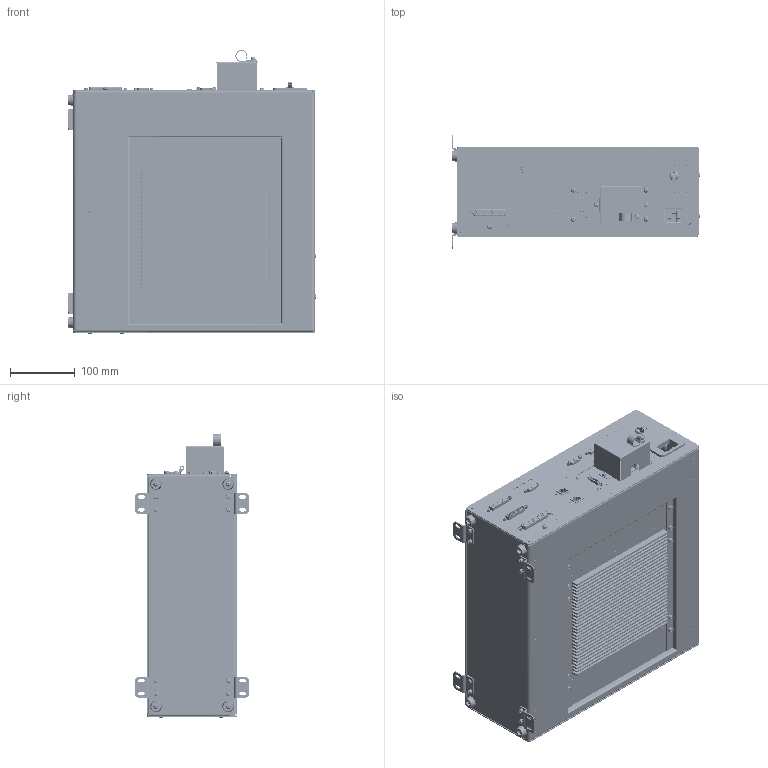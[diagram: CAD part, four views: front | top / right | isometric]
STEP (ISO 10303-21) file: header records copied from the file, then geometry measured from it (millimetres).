
FILE_DESCRIPTION (( 'STEP AP203' ), '1' );
FILE_NAME ('RC40B-DEX ¿ØÖÆ¹ñ Êú°æ.STEP', '2022-07-26T07:46:23', ( '' ), ( '' ), 'SwSTEP 2.0', 'SolidWorks 2021', '' );
FILE_SCHEMA (( 'CONFIG_CONTROL_DESIGN' ));
Length unit declared in the file: millimetre
Products named in the file (42): CDRD-4A05-A01.STEP; RC60A-DAX-01-06 __________.STEP; __________ NYDM3100-20P-P-20P.STEP; GB__T6170-20001__________A____B__M3.STEP; RC60A-DAX-01-10 ________.STEP; RC60A-DAX-01-01 ____.STEP; DS-UNC-2P-2.STEP; RC40B-DEX 諷秶嶄.STEP; RC40A-DEX-02-02__________B.STEP; DS-UNC-2P.STEP; GB__T6170-20001__________A____B__M4.STEP; E7.820.003A.STEP; RC60A-DAX-01-05 IO________.STEP; RC60A-DAX-01-02 ______.STEP; ________-1.STEP; ________.STEP; RC40B-DEX 諷秶嶄 旳唳; RC40-01-20 ________________.STEP; ________________ M4__6.STEP; RC40A-DAX-01-03 ________.STEP; ______________ M3__6.STEP; ____________ MC20FEL5.STEP; DM-9SS(MISUMI).STEP; DS-UNC-2P-3.STEP; RC40A-DEX-02-01__________A.STEP; ____________________ M4__8.STEP; ________ 18__15__8.STEP; ______ BB2-B0-42-616-12B-E.STEP; RC40A-DAX ________.STEP; RC60A-DAX-01-12 __________.STEP; R______ CC-4.STEP; DS-UNC-2P-0.STEP; RC60A-DAX-01-04 ______.STEP; ______________ M4__10.STEP; ____________ LH-JK.STEP; RC40A-DAX-01-04 ____________.STEP; RC60-DFX-01-01 ______.STEP; E_0100.2026_03.STEP; ____________________ M4__12.STEP; ________________ M4__8.STEP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
Assembly tree (157 placements, depth 4):
  RC40B-DEX 諷秶嶄 旳唳
    RC40B-DEX 諷秶嶄.STEP
      RC40A-DAX ________.STEP
        ____________ LH-JK.STEP
        ______ BB2-B0-42-616-12B-E.STEP
        E_0100.2026_03.STEP
        DM-9SS(MISUMI).STEP  x2
        DS-UNC-2P.STEP
        DS-UNC-2P-0.STEP
        E7.820.003A.STEP
        RC60A-DAX-01-05 IO________.STEP
        ________.STEP
        RC40A-DAX-01-01 ________.STEP
        ____________ MC20FEL5.STEP
        __________ NYDM3100-20P-P-20P.STEP
        RC60-DFX-01-01 ______.STEP
        ________-1.STEP
        DS-UNC-2P-2.STEP
        DS-UNC-2P-3.STEP
      RC60A-DAX-01-01 ____.STEP
      RC60A-DAX-01-02 ______.STEP
      RC60A-DAX-01-06 __________.STEP
      RC60A-DAX-01-04 ______.STEP
      ________ 18__15__8.STEP  x4
      RC60A-DAX-01-10 ________.STEP  x4
      ____________________ M4__12.STEP  x3
      ____________________ M4__8.STEP  x35
      GB__T6170-20001__________A____B__M4.STEP  x3
      ______________ M4__10.STEP  x3
      RC40A-DAX-01-03 ________.STEP
      RC40-01-20 ________________.STEP
      ______________ M2.5__6.STEP  x10
      GB__T6170-20001__________A____B__M3.STEP  x2
      RC40A-DAX-01-04 ____________.STEP
      ______________ M3__6.STEP  x45
      RC60A-DAX-01-12 __________.STEP
      ________________ M4__6.STEP  x12
      R______ CC-4.STEP  x2
      CDRD-4A05-A01.STEP
      RC40A-DEX-02-01__________A.STEP
      RC40A-DEX-02-02__________B.STEP
      ________________ M4__8.STEP  x4
Bounding box: 385.2 x 176 x 440.4 mm (x, y, z)
Volume: 1163528.3 mm3; surface area: 1317015.5 mm2
Topology: 194 solids, 239 shells, 18929 faces, 50438 edges, 32481 vertices
Faces by surface type: plane 12874, cylinder 3098, cone 1512, torus 841, bspline 486, sphere 118
Entity records: 514769 total; most frequent: CARTESIAN_POINT 117215, ORIENTED_EDGE 82284, DIRECTION 74165, EDGE_CURVE 41180, VECTOR 34311, LINE 34311, VERTEX_POINT 26989, EDGE_LOOP 19950
